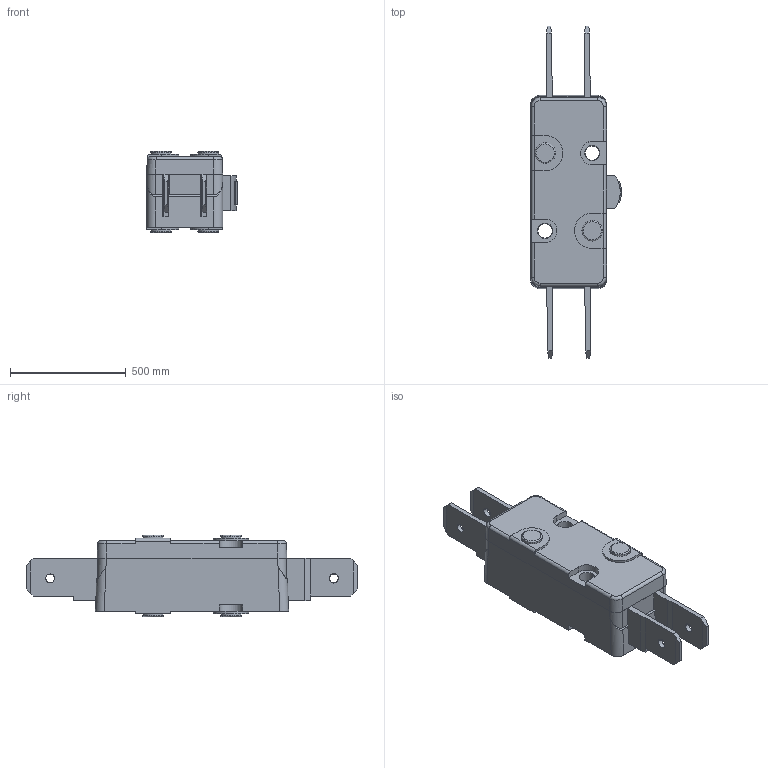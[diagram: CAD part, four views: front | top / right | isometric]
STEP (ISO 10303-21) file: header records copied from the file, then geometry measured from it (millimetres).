
FILE_DESCRIPTION((''),'2;1');
FILE_NAME('TW-101A','2016-08-13T',('ABS'),(''),'PRO/ENGINEER BY PARAMETRIC TECHNOLOGY CORPORATION, 2012360','PRO/ENGINEER BY PARAMETRIC TECHNOLOGY CORPORATION, 2012360','');
FILE_SCHEMA(('CONFIG_CONTROL_DESIGN'));
Length unit declared in the file: inch
Products named in the file (1): TW-101A
Bounding box: 390.94 x 1431.54 x 350.52 mm (x, y, z)
Volume: 79131956.6 mm3; surface area: 2728726.1 mm2
Topology: 1 solids, 21 shells, 408 faces, 1065 edges, 698 vertices
Faces by surface type: plane 329, cylinder 63, torus 12, cone 4
Entity records: 12588 total; most frequent: CARTESIAN_POINT 2425, ORIENTED_EDGE 2130, DIRECTION 2006, EDGE_CURVE 1065, VECTOR 876, LINE 876, VERTEX_POINT 698, AXIS2_PLACEMENT_3D 565
